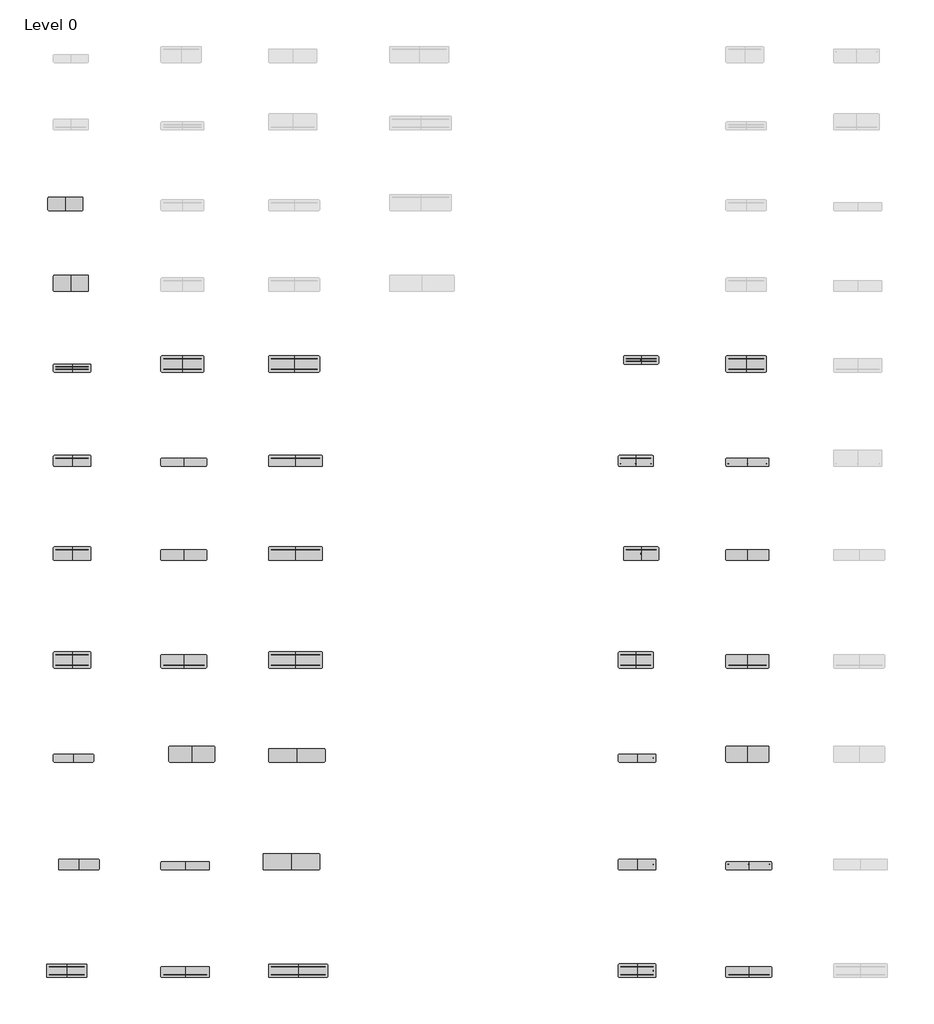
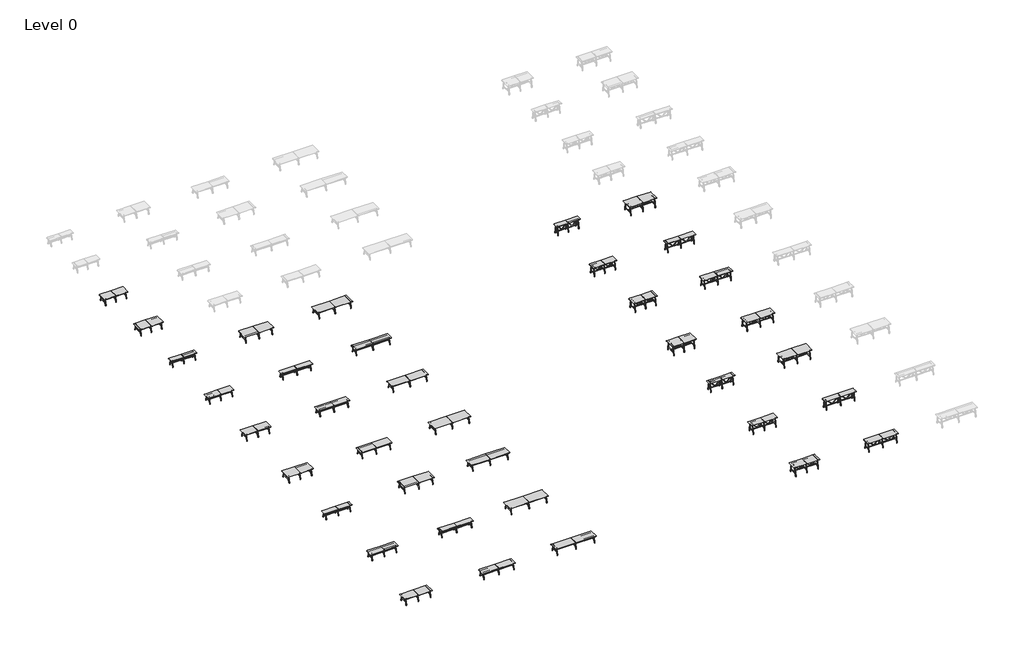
# One storey, part 1 of 2: 111 furniture elements.
"""IFC4 building model written with IfcOpenShell, lengths in millimetres."""

from ifc_helpers import new_model, si_unit, origin, place, context, project, spatial, transform, mapped, element, save
from components import furniture_430340d5, furniture_b79d2082, furniture_93a14fa1, furniture_cf4d2565, furniture_deea29bb, furniture_94fb7749, furniture_c624f670, furniture_f723603e, furniture_a930f645, furniture_c97e34f6, furniture_f51041cf, furniture_c619acf8, furniture_128a932d, furniture_eb29a019, furniture_cd37825a, furniture_3188798d, furniture_34c553e8, furniture_5c22946d, furniture_5564a68a, furniture_56d79fee, furniture_ae4a0ddc, furniture_764c62b1, furniture_8d13127c, furniture_c70b53db, furniture_7d9a73d7, furniture_f5455bfb, furniture_5045bd6b, furniture_01a6464a, furniture_1ba23f32, furniture_fe8ec95c, furniture_60e90959, furniture_6ec0f736, furniture_782106a6, furniture_340da50a, furniture_330fea7b, furniture_16feb259, furniture_3627ae5c, standard_e49cf23a, standard_764fe6dd, standard_51391d5e, standard_9c482cb1, standard_cbe8bfad, standard_96c98aa3, standard_6f20e87f, standard_83b622b6, standard_ebd812a6, standard_5d47b802, standard_5de00fbe, standard_5a547e0f, standard_f0e4b4a8, standard_dce489fb, standard_a8cf723d, standard_760dc299, standard_3fda8c66, standard_67ecec02, standard_20d5036e, standard_7387f7f3, standard_fa61a7d6, standard_bade355e, standard_b130652b, standard_3b17631c, standard_a00d5145, standard_066c3617, standard_4e0f21be, standard_f1ad80d6, standard_e8bf10b1, standard_5f55f8bf, standard_79f6cf34, standard_6aeb70d0, standard_100b0362

model = new_model("IFC4")

# Units and contexts
model_context = context("Model", 3, world=origin())
ifc_project = project(units=[si_unit("LENGTHUNIT", "METRE", prefix="MILLI")], contexts=[model_context])

# Site, building, storey
site = spatial("IfcSite", under=ifc_project)
building = spatial("IfcBuilding", under=site)
storey = spatial("IfcBuildingStorey", under=building, Name="Level 0", Elevation=0.0)

# Furniture
placement = place(None, origin())
furniture_shape = furniture_430340d5(model_context)
element("IfcFurniture", 1, ObjectType="BDG_BossDesign_Tbls_AgentTables6Legs : AGE-DT-6L-2600-1000-3D", at=placement, inside=storey, context=model_context, shape_type="MappedRepresentation", body=[
    mapped(furniture_shape, transform((-53284.3748273, -20663.0272761, 0.0), x_axis=(1.0, 0.0, 0.0), y_axis=(0.0, 1.0, 0.0), z_axis=(0.0, 0.0, 1.0))),
])
furniture_2_shape = furniture_b79d2082(model_context)
element("IfcFurniture", 2, ObjectType="BDG_BossDesign_Tbls_AgentTables6Legs : AGE-DT-6L-2600-1200-3D", at=placement, inside=storey, context=model_context, shape_type="MappedRepresentation", body=[
    mapped(furniture_2_shape, transform((-52884.3748273, -26563.0272761, 0.0), x_axis=(1.0, 0.0, 0.0), y_axis=(0.0, 1.0, 0.0), z_axis=(0.0, 0.0, 1.0))),
])
furniture_3_shape = furniture_93a14fa1(model_context)
element("IfcFurniture", 3, ObjectType="BDG_BossDesign_Tbls_AgentTables6Legs : AGE-DT-6L-2800-600-3D", at=placement, inside=storey, context=model_context, shape_type="MappedRepresentation", body=[
    mapped(furniture_3_shape, transform((-52784.3748273, -32863.0272761, 0.0), x_axis=(1.0, 0.0, 0.0), y_axis=(0.0, 1.0, 0.0), z_axis=(0.0, 0.0, 1.0))),
])
furniture_4_shape = furniture_cf4d2565(model_context)
element("IfcFurniture", 4, ObjectType="BDG_BossDesign_Tbls_AgentTables6Legs : AGE-DT-6L-2800-800-3D", at=placement, inside=storey, context=model_context, shape_type="MappedRepresentation", body=[
    mapped(furniture_4_shape, transform((-52784.3748273, -39763.0272761, 0.0), x_axis=(1.0, 0.0, 0.0), y_axis=(0.0, 1.0, 0.0), z_axis=(0.0, 0.0, 1.0))),
])
furniture_5_shape = furniture_deea29bb(model_context)
element("IfcFurniture", 5, ObjectType="BDG_BossDesign_Tbls_AgentTables6Legs : AGE-DT-6L-2800-1000-3D", at=placement, inside=storey, context=model_context, shape_type="MappedRepresentation", body=[
    mapped(furniture_5_shape, transform((-52784.3748273, -46663.0272761, 0.0), x_axis=(1.0, 0.0, 0.0), y_axis=(0.0, 1.0, 0.0), z_axis=(0.0, 0.0, 1.0))),
])
furniture_6_shape = furniture_94fb7749(model_context)
element("IfcFurniture", 6, ObjectType="BDG_BossDesign_Tbls_AgentTables6Legs : AGE-DT-6L-2800-1200-3D", at=placement, inside=storey, context=model_context, shape_type="MappedRepresentation", body=[
    mapped(furniture_6_shape, transform((-52784.3748273, -54563.0272761, 0.0), x_axis=(1.0, 0.0, 0.0), y_axis=(0.0, 1.0, 0.0), z_axis=(0.0, 0.0, 1.0))),
])
furniture_7_shape = furniture_c624f670(model_context)
element("IfcFurniture", 7, ObjectType="BDG_BossDesign_Tbls_AgentTables6Legs : AGE-DT-6L-3000-600-3D", at=placement, inside=storey, context=model_context, shape_type="MappedRepresentation", body=[
    mapped(furniture_7_shape, transform((-52684.3748273, -61863.0272761, 0.0), x_axis=(1.0, 0.0, 0.0), y_axis=(0.0, 1.0, 0.0), z_axis=(0.0, 0.0, 1.0))),
])
furniture_8_shape = furniture_f723603e(model_context)
element("IfcFurniture", 8, ObjectType="BDG_BossDesign_Tbls_AgentTables6Legs : AGE-DT-6L-3000-800-3D", at=placement, inside=storey, context=model_context, shape_type="MappedRepresentation", body=[
    mapped(furniture_8_shape, transform((-52284.3748273, -69763.0272761, 0.0), x_axis=(1.0, 0.0, 0.0), y_axis=(0.0, 1.0, 0.0), z_axis=(0.0, 0.0, 1.0))),
])
furniture_9_shape = furniture_a930f645(model_context)
element("IfcFurniture", 9, ObjectType="BDG_BossDesign_Tbls_AgentTables6Legs : AGE-DT-6L-3000-1000-3D", at=placement, inside=storey, context=model_context, shape_type="MappedRepresentation", body=[
    mapped(furniture_9_shape, transform((-53184.3748273, -77663.0272761, 0.0), x_axis=(1.0, 0.0, 0.0), y_axis=(0.0, 1.0, 0.0), z_axis=(0.0, 0.0, 1.0))),
])
furniture_10_shape = furniture_c97e34f6(model_context)
element("IfcFurniture", 10, ObjectType="BDG_BossDesign_Tbls_AgentTables6Legs : AGE-DT-6L-3200-1200-3D", at=placement, inside=storey, context=model_context, shape_type="MappedRepresentation", body=[
    mapped(furniture_10_shape, transform((-44584.3748273, -32563.0272761, 0.0), x_axis=(1.0, 0.0, 0.0), y_axis=(0.0, 1.0, 0.0), z_axis=(0.0, 0.0, 1.0))),
])
furniture_11_shape = furniture_f51041cf(model_context)
element("IfcFurniture", 11, ObjectType="BDG_BossDesign_Tbls_AgentTables6Legs : AGE-DT-6L-3400-600-3D", at=placement, inside=storey, context=model_context, shape_type="MappedRepresentation", body=[
    mapped(furniture_11_shape, transform((-44484.3748273, -39863.0272761, 0.0), x_axis=(1.0, 0.0, 0.0), y_axis=(0.0, 1.0, 0.0), z_axis=(0.0, 0.0, 1.0))),
])
furniture_12_shape = furniture_c619acf8(model_context)
element("IfcFurniture", 12, ObjectType="BDG_BossDesign_Tbls_AgentTables6Legs : AGE-DT-6L-3400-800-3D", at=placement, inside=storey, context=model_context, shape_type="MappedRepresentation", body=[
    mapped(furniture_12_shape, transform((-44484.3748273, -46763.0272761, 0.0), x_axis=(1.0, 0.0, 0.0), y_axis=(0.0, 1.0, 0.0), z_axis=(0.0, 0.0, 1.0))),
])
furniture_13_shape = furniture_128a932d(model_context)
element("IfcFurniture", 13, ObjectType="BDG_BossDesign_Tbls_AgentTables6Legs : AGE-DT-6L-3400-1000-3D", at=placement, inside=storey, context=model_context, shape_type="MappedRepresentation", body=[
    mapped(furniture_13_shape, transform((-44484.3748273, -54663.0272761, 0.0), x_axis=(1.0, 0.0, 0.0), y_axis=(0.0, 1.0, 0.0), z_axis=(0.0, 0.0, 1.0))),
])
furniture_14_shape = furniture_eb29a019(model_context)
element("IfcFurniture", 14, ObjectType="BDG_BossDesign_Tbls_AgentTables6Legs : AGE-DT-6L-3400-1200-3D", at=placement, inside=storey, context=model_context, shape_type="MappedRepresentation", body=[
    mapped(furniture_14_shape, transform((-43884.3748273, -61563.0272761, 0.0), x_axis=(1.0, 0.0, 0.0), y_axis=(0.0, 1.0, 0.0), z_axis=(0.0, 0.0, 1.0))),
])
furniture_15_shape = furniture_cd37825a(model_context)
element("IfcFurniture", 15, ObjectType="BDG_BossDesign_Tbls_AgentTables6Legs : AGE-DT-6L-3600-600-3D", at=placement, inside=storey, context=model_context, shape_type="MappedRepresentation", body=[
    mapped(furniture_15_shape, transform((-44384.3748273, -69863.0272761, 0.0), x_axis=(1.0, 0.0, 0.0), y_axis=(0.0, 1.0, 0.0), z_axis=(0.0, 0.0, 1.0))),
])
furniture_16_shape = furniture_3188798d(model_context)
element("IfcFurniture", 16, ObjectType="BDG_BossDesign_Tbls_AgentTables6Legs : AGE-DT-6L-3600-800-3D", at=placement, inside=storey, context=model_context, shape_type="MappedRepresentation", body=[
    mapped(furniture_16_shape, transform((-44384.3748273, -77763.0272761, 0.0), x_axis=(1.0, 0.0, 0.0), y_axis=(0.0, 1.0, 0.0), z_axis=(0.0, 0.0, 1.0))),
])
furniture_17_shape = furniture_34c553e8(model_context)
element("IfcFurniture", 17, ObjectType="BDG_BossDesign_Tbls_AgentTables6Legs : AGE-DT-6L-3800-1200-3D", at=placement, inside=storey, context=model_context, shape_type="MappedRepresentation", body=[
    mapped(furniture_17_shape, transform((-36284.3748273, -32563.0272761, 0.0), x_axis=(1.0, 0.0, 0.0), y_axis=(0.0, 1.0, 0.0), z_axis=(0.0, 0.0, 1.0))),
])
furniture_18_shape = furniture_5c22946d(model_context)
element("IfcFurniture", 18, ObjectType="BDG_BossDesign_Tbls_AgentTables6Legs : AGE-DT-6L-4000-800-3D", at=placement, inside=storey, context=model_context, shape_type="MappedRepresentation", body=[
    mapped(furniture_18_shape, transform((-36184.3748273, -39763.0272761, 0.0), x_axis=(1.0, 0.0, 0.0), y_axis=(0.0, 1.0, 0.0), z_axis=(0.0, 0.0, 1.0))),
])
furniture_19_shape = furniture_5564a68a(model_context)
element("IfcFurniture", 19, ObjectType="BDG_BossDesign_Tbls_AgentTables6Legs : AGE-DT-6L-4000-1000-3D", at=placement, inside=storey, context=model_context, shape_type="MappedRepresentation", body=[
    mapped(furniture_19_shape, transform((-36184.3748273, -46663.0272761, 0.0), x_axis=(1.0, 0.0, 0.0), y_axis=(0.0, 1.0, 0.0), z_axis=(0.0, 0.0, 1.0))),
])
furniture_20_shape = furniture_56d79fee(model_context)
element("IfcFurniture", 20, ObjectType="BDG_BossDesign_Tbls_AgentTables6Legs : AGE-DT-6L-4000-1200-3D", at=placement, inside=storey, context=model_context, shape_type="MappedRepresentation", body=[
    mapped(furniture_20_shape, transform((-36184.3748273, -54563.0272761, 0.0), x_axis=(1.0, 0.0, 0.0), y_axis=(0.0, 1.0, 0.0), z_axis=(0.0, 0.0, 1.0))),
])
furniture_21_shape = furniture_ae4a0ddc(model_context)
element("IfcFurniture", 21, ObjectType="BDG_BossDesign_Tbls_AgentTables6Legs : AGE-DT-6L-4200-1000-3D", at=placement, inside=storey, context=model_context, shape_type="MappedRepresentation", body=[
    mapped(furniture_21_shape, transform((-36084.3748273, -61663.0272761, 0.0), x_axis=(1.0, 0.0, 0.0), y_axis=(0.0, 1.0, 0.0), z_axis=(0.0, 0.0, 1.0))),
])
furniture_22_shape = furniture_764c62b1(model_context)
element("IfcFurniture", 22, ObjectType="BDG_BossDesign_Tbls_AgentTables6Legs : AGE-DT-6L-4200-1200-3D", at=placement, inside=storey, context=model_context, shape_type="MappedRepresentation", body=[
    mapped(furniture_22_shape, transform((-36484.3748273, -69563.0272761, 0.0), x_axis=(1.0, 0.0, 0.0), y_axis=(0.0, 1.0, 0.0), z_axis=(0.0, 0.0, 1.0))),
])
furniture_23_shape = furniture_8d13127c(model_context)
element("IfcFurniture", 23, ObjectType="BDG_BossDesign_Tbls_AgentTables6Legs : AGE-DT-6L-4400-1000-3D", at=placement, inside=storey, context=model_context, shape_type="MappedRepresentation", body=[
    mapped(furniture_23_shape, transform((-35984.3748273, -77663.0272761, 0.0), x_axis=(1.0, 0.0, 0.0), y_axis=(0.0, 1.0, 0.0), z_axis=(0.0, 0.0, 1.0))),
])
furniture_24_shape = furniture_c70b53db(model_context)
element("IfcFurniture", 24, ObjectType="BDG_BossDesign_Tbls_AgentTables6Legs : AGE-HT-6L-2600-600-3D", at=placement, inside=storey, context=model_context, shape_type="MappedRepresentation", body=[
    mapped(furniture_24_shape, transform((-10484.3748273, -32263.0272761, 0.0), x_axis=(1.0, 0.0, 0.0), y_axis=(0.0, 1.0, 0.0), z_axis=(0.0, 0.0, 1.0))),
])
furniture_25_shape = furniture_7d9a73d7(model_context)
element("IfcFurniture", 25, ObjectType="BDG_BossDesign_Tbls_AgentTables6Legs : AGE-HT-6L-2600-800-3D", at=placement, inside=storey, context=model_context, shape_type="MappedRepresentation", body=[
    mapped(furniture_25_shape, transform((-10884.3748273, -39763.0272761, 0.0), x_axis=(1.0, 0.0, 0.0), y_axis=(0.0, 1.0, 0.0), z_axis=(0.0, 0.0, 1.0))),
])
furniture_26_shape = furniture_f5455bfb(model_context)
element("IfcFurniture", 26, ObjectType="BDG_BossDesign_Tbls_AgentTables6Legs : AGE-HT-6L-2600-1000-3D", at=placement, inside=storey, context=model_context, shape_type="MappedRepresentation", body=[
    mapped(furniture_26_shape, transform((-10484.3748273, -46663.0272761, 0.0), x_axis=(1.0, 0.0, 0.0), y_axis=(0.0, 1.0, 0.0), z_axis=(0.0, 0.0, 1.0))),
])
furniture_27_shape = furniture_5045bd6b(model_context)
element("IfcFurniture", 27, ObjectType="BDG_BossDesign_Tbls_AgentTables6Legs : AGE-HT-6L-2600-1200-3D", at=placement, inside=storey, context=model_context, shape_type="MappedRepresentation", body=[
    mapped(furniture_27_shape, transform((-10884.3748273, -54563.0272761, 0.0), x_axis=(1.0, 0.0, 0.0), y_axis=(0.0, 1.0, 0.0), z_axis=(0.0, 0.0, 1.0))),
])
furniture_28_shape = furniture_01a6464a(model_context)
element("IfcFurniture", 28, ObjectType="BDG_BossDesign_Tbls_AgentTables6Legs : AGE-HT-6L-2800-600-3D", at=placement, inside=storey, context=model_context, shape_type="MappedRepresentation", body=[
    mapped(furniture_28_shape, transform((-10784.3748273, -61863.0272761, 0.0), x_axis=(1.0, 0.0, 0.0), y_axis=(0.0, 1.0, 0.0), z_axis=(0.0, 0.0, 1.0))),
])
furniture_29_shape = furniture_1ba23f32(model_context)
element("IfcFurniture", 29, ObjectType="BDG_BossDesign_Tbls_AgentTables6Legs : AGE-HT-6L-2800-800-3D", at=placement, inside=storey, context=model_context, shape_type="MappedRepresentation", body=[
    mapped(furniture_29_shape, transform((-10784.3748273, -69763.0272761, 0.0), x_axis=(1.0, 0.0, 0.0), y_axis=(0.0, 1.0, 0.0), z_axis=(0.0, 0.0, 1.0))),
])
furniture_30_shape = furniture_fe8ec95c(model_context)
element("IfcFurniture", 30, ObjectType="BDG_BossDesign_Tbls_AgentTables6Legs : AGE-HT-6L-2800-1000-3D", at=placement, inside=storey, context=model_context, shape_type="MappedRepresentation", body=[
    mapped(furniture_30_shape, transform((-10784.3748273, -77663.0272761, 0.0), x_axis=(1.0, 0.0, 0.0), y_axis=(0.0, 1.0, 0.0), z_axis=(0.0, 0.0, 1.0))),
])
furniture_31_shape = furniture_60e90959(model_context)
element("IfcFurniture", 31, ObjectType="BDG_BossDesign_Tbls_AgentTables6Legs : AGE-HT-6L-3000-1200-3D", at=placement, inside=storey, context=model_context, shape_type="MappedRepresentation", body=[
    mapped(furniture_31_shape, transform((-2684.3748273, -32563.0272761, 0.0), x_axis=(1.0, 0.0, 0.0), y_axis=(0.0, 1.0, 0.0), z_axis=(0.0, 0.0, 1.0))),
])
furniture_32_shape = furniture_6ec0f736(model_context)
element("IfcFurniture", 32, ObjectType="BDG_BossDesign_Tbls_AgentTables6Legs : AGE-HT-6L-3200-600-3D", at=placement, inside=storey, context=model_context, shape_type="MappedRepresentation", body=[
    mapped(furniture_32_shape, transform((-2584.3748273, -39863.0272761, 0.0), x_axis=(1.0, 0.0, 0.0), y_axis=(0.0, 1.0, 0.0), z_axis=(0.0, 0.0, 1.0))),
])
furniture_33_shape = furniture_782106a6(model_context)
element("IfcFurniture", 33, ObjectType="BDG_BossDesign_Tbls_AgentTables6Legs : AGE-HT-6L-3200-800-3D", at=placement, inside=storey, context=model_context, shape_type="MappedRepresentation", body=[
    mapped(furniture_33_shape, transform((-2584.3748273, -46763.0272761, 0.0), x_axis=(1.0, 0.0, 0.0), y_axis=(0.0, 1.0, 0.0), z_axis=(0.0, 0.0, 1.0))),
])
furniture_34_shape = furniture_340da50a(model_context)
element("IfcFurniture", 34, ObjectType="BDG_BossDesign_Tbls_AgentTables6Legs : AGE-HT-6L-3200-1000-3D", at=placement, inside=storey, context=model_context, shape_type="MappedRepresentation", body=[
    mapped(furniture_34_shape, transform((-2584.3748273, -54663.0272761, 0.0), x_axis=(1.0, 0.0, 0.0), y_axis=(0.0, 1.0, 0.0), z_axis=(0.0, 0.0, 1.0))),
])
furniture_35_shape = furniture_330fea7b(model_context)
element("IfcFurniture", 35, ObjectType="BDG_BossDesign_Tbls_AgentTables6Legs : AGE-HT-6L-3200-1200-3D", at=placement, inside=storey, context=model_context, shape_type="MappedRepresentation", body=[
    mapped(furniture_35_shape, transform((-2584.3748273, -61563.0272761, 0.0), x_axis=(1.0, 0.0, 0.0), y_axis=(0.0, 1.0, 0.0), z_axis=(0.0, 0.0, 1.0))),
])
furniture_36_shape = furniture_16feb259(model_context)
element("IfcFurniture", 36, ObjectType="BDG_BossDesign_Tbls_AgentTables6Legs : AGE-HT-6L-3400-600-3D", at=placement, inside=storey, context=model_context, shape_type="MappedRepresentation", body=[
    mapped(furniture_36_shape, transform((-2484.3748273, -69863.0272761, 0.0), x_axis=(1.0, 0.0, 0.0), y_axis=(0.0, 1.0, 0.0), z_axis=(0.0, 0.0, 1.0))),
])
furniture_37_shape = furniture_3627ae5c(model_context)
element("IfcFurniture", 37, ObjectType="BDG_BossDesign_Tbls_AgentTables6Legs : AGE-HT-6L-3400-800-3D", at=placement, inside=storey, context=model_context, shape_type="MappedRepresentation", body=[
    mapped(furniture_37_shape, transform((-2484.3748273, -77763.0272761, 0.0), x_axis=(1.0, 0.0, 0.0), y_axis=(0.0, 1.0, 0.0), z_axis=(0.0, 0.0, 1.0))),
])
standard_shape = standard_e49cf23a(model_context)
element("IfcFurniture", 38, ObjectType="BDG_BossDesign_Tbls_AgentTables4Legs_Nested : Standard", at=placement, inside=storey, context=model_context, shape_type="MappedRepresentation", body=[
    mapped(standard_shape, transform((-10484.3748273, -32263.0272761, 310.0), x_axis=(1.0, 0.0, 0.0), y_axis=(0.0, 1.0, 0.0), z_axis=(0.0, 0.0, 1.0))),
])
standard_2_shape = standard_764fe6dd(model_context)
element("IfcFurniture", 39, ObjectType="BDG_BossDesign_Tbls_AgentTables4Legs_MiddleCrossBeamNested : Standard", at=placement, inside=storey, context=model_context, shape_type="MappedRepresentation", body=[
    mapped(standard_2_shape, transform((-10484.3748273, -32263.0272761, 310.0), x_axis=(1.0, 0.0, 0.0), y_axis=(0.0, 1.0, 0.0), z_axis=(0.0, 0.0, 1.0))),
])
standard_3_shape = standard_51391d5e(model_context)
element("IfcFurniture", 40, ObjectType="BDG_BossDesign_Tbls_AgentTables4Legs_Nested : Standard", at=placement, inside=storey, context=model_context, shape_type="MappedRepresentation", body=[
    mapped(standard_3_shape, transform((-10884.3748273, -39763.0272761, 310.0), x_axis=(1.0, 0.0, 0.0), y_axis=(0.0, 1.0, 0.0), z_axis=(0.0, 0.0, 1.0))),
])
standard_4_shape = standard_9c482cb1(model_context)
element("IfcFurniture", 41, ObjectType="BDG_BossDesign_Tbls_AgentTables4Legs_MiddleCrossBeamNested : Standard", at=placement, inside=storey, context=model_context, shape_type="MappedRepresentation", body=[
    mapped(standard_4_shape, transform((-10884.3748273, -39763.0272761, 310.0), x_axis=(1.0, 0.0, 0.0), y_axis=(0.0, 1.0, 0.0), z_axis=(0.0, 0.0, 1.0))),
])
standard_5_shape = standard_cbe8bfad(model_context)
element("IfcFurniture", 42, ObjectType="BDG_BossDesign_Tbls_AgentTables4Legs_Nested : Standard", at=placement, inside=storey, context=model_context, shape_type="MappedRepresentation", body=[
    mapped(standard_5_shape, transform((-53284.3748273, -20663.0272761, 0.0), x_axis=(1.0, 0.0, 0.0), y_axis=(0.0, 1.0, 0.0), z_axis=(0.0, 0.0, 1.0))),
])
element("IfcFurniture", 43, ObjectType="BDG_BossDesign_Tbls_AgentTables4Legs_Nested : Standard", at=placement, inside=storey, context=model_context, shape_type="MappedRepresentation", body=[
    mapped(standard_5_shape, transform((-10484.3748273, -46663.0272761, 310.0), x_axis=(1.0, 0.0, 0.0), y_axis=(0.0, 1.0, 0.0), z_axis=(0.0, 0.0, 1.0))),
])
standard_6_shape = standard_96c98aa3(model_context)
element("IfcFurniture", 44, ObjectType="BDG_BossDesign_Tbls_AgentTables4Legs_MiddleCrossBeamNested : Standard", at=placement, inside=storey, context=model_context, shape_type="MappedRepresentation", body=[
    mapped(standard_6_shape, transform((-53284.3748273, -20663.0272761, 0.0), x_axis=(1.0, 0.0, 0.0), y_axis=(0.0, 1.0, 0.0), z_axis=(0.0, 0.0, 1.0))),
])
element("IfcFurniture", 45, ObjectType="BDG_BossDesign_Tbls_AgentTables4Legs_MiddleCrossBeamNested : Standard", at=placement, inside=storey, context=model_context, shape_type="MappedRepresentation", body=[
    mapped(standard_6_shape, transform((-10484.3748273, -46663.0272761, 310.0), x_axis=(1.0, 0.0, 0.0), y_axis=(0.0, 1.0, 0.0), z_axis=(0.0, 0.0, 1.0))),
])
standard_7_shape = standard_6f20e87f(model_context)
element("IfcFurniture", 46, ObjectType="BDG_BossDesign_Tbls_AgentTables4Legs_Nested : Standard", at=placement, inside=storey, context=model_context, shape_type="MappedRepresentation", body=[
    mapped(standard_7_shape, transform((-52884.3748273, -26563.0272761, 0.0), x_axis=(1.0, 0.0, 0.0), y_axis=(0.0, 1.0, 0.0), z_axis=(0.0, 0.0, 1.0))),
])
element("IfcFurniture", 47, ObjectType="BDG_BossDesign_Tbls_AgentTables4Legs_Nested : Standard", at=placement, inside=storey, context=model_context, shape_type="MappedRepresentation", body=[
    mapped(standard_7_shape, transform((-10884.3748273, -54563.0272761, 310.0), x_axis=(1.0, 0.0, 0.0), y_axis=(0.0, 1.0, 0.0), z_axis=(0.0, 0.0, 1.0))),
])
standard_8_shape = standard_83b622b6(model_context)
element("IfcFurniture", 48, ObjectType="BDG_BossDesign_Tbls_AgentTables4Legs_MiddleCrossBeamNested : Standard", at=placement, inside=storey, context=model_context, shape_type="MappedRepresentation", body=[
    mapped(standard_8_shape, transform((-52884.3748273, -26563.0272761, 0.0), x_axis=(1.0, 0.0, 0.0), y_axis=(0.0, 1.0, 0.0), z_axis=(0.0, 0.0, 1.0))),
])
element("IfcFurniture", 49, ObjectType="BDG_BossDesign_Tbls_AgentTables4Legs_MiddleCrossBeamNested : Standard", at=placement, inside=storey, context=model_context, shape_type="MappedRepresentation", body=[
    mapped(standard_8_shape, transform((-10884.3748273, -54563.0272761, 310.0), x_axis=(1.0, 0.0, 0.0), y_axis=(0.0, 1.0, 0.0), z_axis=(0.0, 0.0, 1.0))),
])
standard_9_shape = standard_ebd812a6(model_context)
element("IfcFurniture", 50, ObjectType="BDG_BossDesign_Tbls_AgentTables4Legs_Nested : Standard", at=placement, inside=storey, context=model_context, shape_type="MappedRepresentation", body=[
    mapped(standard_9_shape, transform((-52784.3748273, -32863.0272761, 0.0), x_axis=(1.0, 0.0, 0.0), y_axis=(0.0, 1.0, 0.0), z_axis=(0.0, 0.0, 1.0))),
])
element("IfcFurniture", 51, ObjectType="BDG_BossDesign_Tbls_AgentTables4Legs_Nested : Standard", at=placement, inside=storey, context=model_context, shape_type="MappedRepresentation", body=[
    mapped(standard_9_shape, transform((-10784.3748273, -61863.0272761, 310.0), x_axis=(1.0, 0.0, 0.0), y_axis=(0.0, 1.0, 0.0), z_axis=(0.0, 0.0, 1.0))),
])
element("IfcFurniture", 52, ObjectType="BDG_BossDesign_Tbls_AgentTables4Legs_MiddleCrossBeamNested : Standard", at=placement, inside=storey, context=model_context, shape_type="MappedRepresentation", body=[
    mapped(standard_2_shape, transform((-52784.3748273, -32863.0272761, 0.0), x_axis=(1.0, 0.0, 0.0), y_axis=(0.0, 1.0, 0.0), z_axis=(0.0, 0.0, 1.0))),
])
element("IfcFurniture", 53, ObjectType="BDG_BossDesign_Tbls_AgentTables4Legs_MiddleCrossBeamNested : Standard", at=placement, inside=storey, context=model_context, shape_type="MappedRepresentation", body=[
    mapped(standard_2_shape, transform((-10784.3748273, -61863.0272761, 310.0), x_axis=(1.0, 0.0, 0.0), y_axis=(0.0, 1.0, 0.0), z_axis=(0.0, 0.0, 1.0))),
])
standard_10_shape = standard_5d47b802(model_context)
element("IfcFurniture", 54, ObjectType="BDG_BossDesign_Tbls_AgentTables4Legs_Nested : Standard", at=placement, inside=storey, context=model_context, shape_type="MappedRepresentation", body=[
    mapped(standard_10_shape, transform((-52784.3748273, -39763.0272761, 0.0), x_axis=(1.0, 0.0, 0.0), y_axis=(0.0, 1.0, 0.0), z_axis=(0.0, 0.0, 1.0))),
])
element("IfcFurniture", 55, ObjectType="BDG_BossDesign_Tbls_AgentTables4Legs_Nested : Standard", at=placement, inside=storey, context=model_context, shape_type="MappedRepresentation", body=[
    mapped(standard_10_shape, transform((-10784.3748273, -69763.0272761, 310.0), x_axis=(1.0, 0.0, 0.0), y_axis=(0.0, 1.0, 0.0), z_axis=(0.0, 0.0, 1.0))),
])
element("IfcFurniture", 56, ObjectType="BDG_BossDesign_Tbls_AgentTables4Legs_MiddleCrossBeamNested : Standard", at=placement, inside=storey, context=model_context, shape_type="MappedRepresentation", body=[
    mapped(standard_4_shape, transform((-52784.3748273, -39763.0272761, 0.0), x_axis=(1.0, 0.0, 0.0), y_axis=(0.0, 1.0, 0.0), z_axis=(0.0, 0.0, 1.0))),
])
element("IfcFurniture", 57, ObjectType="BDG_BossDesign_Tbls_AgentTables4Legs_MiddleCrossBeamNested : Standard", at=placement, inside=storey, context=model_context, shape_type="MappedRepresentation", body=[
    mapped(standard_4_shape, transform((-10784.3748273, -69763.0272761, 310.0), x_axis=(1.0, 0.0, 0.0), y_axis=(0.0, 1.0, 0.0), z_axis=(0.0, 0.0, 1.0))),
])
standard_11_shape = standard_5de00fbe(model_context)
element("IfcFurniture", 58, ObjectType="BDG_BossDesign_Tbls_AgentTables4Legs_Nested : Standard", at=placement, inside=storey, context=model_context, shape_type="MappedRepresentation", body=[
    mapped(standard_11_shape, transform((-52784.3748273, -46663.0272761, 0.0), x_axis=(1.0, 0.0, 0.0), y_axis=(0.0, 1.0, 0.0), z_axis=(0.0, 0.0, 1.0))),
])
element("IfcFurniture", 59, ObjectType="BDG_BossDesign_Tbls_AgentTables4Legs_Nested : Standard", at=placement, inside=storey, context=model_context, shape_type="MappedRepresentation", body=[
    mapped(standard_11_shape, transform((-10784.3748273, -77663.0272761, 310.0), x_axis=(1.0, 0.0, 0.0), y_axis=(0.0, 1.0, 0.0), z_axis=(0.0, 0.0, 1.0))),
])
element("IfcFurniture", 60, ObjectType="BDG_BossDesign_Tbls_AgentTables4Legs_MiddleCrossBeamNested : Standard", at=placement, inside=storey, context=model_context, shape_type="MappedRepresentation", body=[
    mapped(standard_6_shape, transform((-52784.3748273, -46663.0272761, 0.0), x_axis=(1.0, 0.0, 0.0), y_axis=(0.0, 1.0, 0.0), z_axis=(0.0, 0.0, 1.0))),
])
element("IfcFurniture", 61, ObjectType="BDG_BossDesign_Tbls_AgentTables4Legs_MiddleCrossBeamNested : Standard", at=placement, inside=storey, context=model_context, shape_type="MappedRepresentation", body=[
    mapped(standard_6_shape, transform((-10784.3748273, -77663.0272761, 310.0), x_axis=(1.0, 0.0, 0.0), y_axis=(0.0, 1.0, 0.0), z_axis=(0.0, 0.0, 1.0))),
])
standard_12_shape = standard_5a547e0f(model_context)
element("IfcFurniture", 62, ObjectType="BDG_BossDesign_Tbls_AgentTables4Legs_Nested : Standard", at=placement, inside=storey, context=model_context, shape_type="MappedRepresentation", body=[
    mapped(standard_12_shape, transform((-52784.3748273, -54563.0272761, 0.0), x_axis=(1.0, 0.0, 0.0), y_axis=(0.0, 1.0, 0.0), z_axis=(0.0, 0.0, 1.0))),
])
element("IfcFurniture", 63, ObjectType="BDG_BossDesign_Tbls_AgentTables4Legs_MiddleCrossBeamNested : Standard", at=placement, inside=storey, context=model_context, shape_type="MappedRepresentation", body=[
    mapped(standard_8_shape, transform((-52784.3748273, -54563.0272761, 0.0), x_axis=(1.0, 0.0, 0.0), y_axis=(0.0, 1.0, 0.0), z_axis=(0.0, 0.0, 1.0))),
])
standard_13_shape = standard_f0e4b4a8(model_context)
element("IfcFurniture", 64, ObjectType="BDG_BossDesign_Tbls_AgentTables4Legs_Nested : Standard", at=placement, inside=storey, context=model_context, shape_type="MappedRepresentation", body=[
    mapped(standard_13_shape, transform((-52684.3748273, -61863.0272761, 0.0), x_axis=(1.0, 0.0, 0.0), y_axis=(0.0, 1.0, 0.0), z_axis=(0.0, 0.0, 1.0))),
])
element("IfcFurniture", 65, ObjectType="BDG_BossDesign_Tbls_AgentTables4Legs_MiddleCrossBeamNested : Standard", at=placement, inside=storey, context=model_context, shape_type="MappedRepresentation", body=[
    mapped(standard_2_shape, transform((-52684.3748273, -61863.0272761, 0.0), x_axis=(1.0, 0.0, 0.0), y_axis=(0.0, 1.0, 0.0), z_axis=(0.0, 0.0, 1.0))),
])
standard_14_shape = standard_dce489fb(model_context)
element("IfcFurniture", 66, ObjectType="BDG_BossDesign_Tbls_AgentTables4Legs_Nested : Standard", at=placement, inside=storey, context=model_context, shape_type="MappedRepresentation", body=[
    mapped(standard_14_shape, transform((-52284.3748273, -69763.0272761, 0.0), x_axis=(1.0, 0.0, 0.0), y_axis=(0.0, 1.0, 0.0), z_axis=(0.0, 0.0, 1.0))),
])
element("IfcFurniture", 67, ObjectType="BDG_BossDesign_Tbls_AgentTables4Legs_MiddleCrossBeamNested : Standard", at=placement, inside=storey, context=model_context, shape_type="MappedRepresentation", body=[
    mapped(standard_4_shape, transform((-52284.3748273, -69763.0272761, 0.0), x_axis=(1.0, 0.0, 0.0), y_axis=(0.0, 1.0, 0.0), z_axis=(0.0, 0.0, 1.0))),
])
standard_15_shape = standard_a8cf723d(model_context)
element("IfcFurniture", 68, ObjectType="BDG_BossDesign_Tbls_AgentTables4Legs_Nested : Standard", at=placement, inside=storey, context=model_context, shape_type="MappedRepresentation", body=[
    mapped(standard_15_shape, transform((-53184.3748273, -77663.0272761, 0.0), x_axis=(1.0, 0.0, 0.0), y_axis=(0.0, 1.0, 0.0), z_axis=(0.0, 0.0, 1.0))),
])
element("IfcFurniture", 69, ObjectType="BDG_BossDesign_Tbls_AgentTables4Legs_MiddleCrossBeamNested : Standard", at=placement, inside=storey, context=model_context, shape_type="MappedRepresentation", body=[
    mapped(standard_6_shape, transform((-53184.3748273, -77663.0272761, 0.0), x_axis=(1.0, 0.0, 0.0), y_axis=(0.0, 1.0, 0.0), z_axis=(0.0, 0.0, 1.0))),
])
standard_16_shape = standard_760dc299(model_context)
element("IfcFurniture", 70, ObjectType="BDG_BossDesign_Tbls_AgentTables4Legs_Nested : Standard", at=placement, inside=storey, context=model_context, shape_type="MappedRepresentation", body=[
    mapped(standard_16_shape, transform((-2684.3748273, -32563.0272761, 310.0), x_axis=(1.0, 0.0, 0.0), y_axis=(0.0, 1.0, 0.0), z_axis=(0.0, 0.0, 1.0))),
])
element("IfcFurniture", 71, ObjectType="BDG_BossDesign_Tbls_AgentTables4Legs_MiddleCrossBeamNested : Standard", at=placement, inside=storey, context=model_context, shape_type="MappedRepresentation", body=[
    mapped(standard_8_shape, transform((-2684.3748273, -32563.0272761, 310.0), x_axis=(1.0, 0.0, 0.0), y_axis=(0.0, 1.0, 0.0), z_axis=(0.0, 0.0, 1.0))),
])
standard_17_shape = standard_3fda8c66(model_context)
element("IfcFurniture", 72, ObjectType="BDG_BossDesign_Tbls_AgentTables4Legs_Nested : Standard", at=placement, inside=storey, context=model_context, shape_type="MappedRepresentation", body=[
    mapped(standard_17_shape, transform((-2584.3748273, -39863.0272761, 310.0), x_axis=(1.0, 0.0, 0.0), y_axis=(0.0, 1.0, 0.0), z_axis=(0.0, 0.0, 1.0))),
])
element("IfcFurniture", 73, ObjectType="BDG_BossDesign_Tbls_AgentTables4Legs_MiddleCrossBeamNested : Standard", at=placement, inside=storey, context=model_context, shape_type="MappedRepresentation", body=[
    mapped(standard_2_shape, transform((-2584.3748273, -39863.0272761, 310.0), x_axis=(1.0, 0.0, 0.0), y_axis=(0.0, 1.0, 0.0), z_axis=(0.0, 0.0, 1.0))),
])
standard_18_shape = standard_67ecec02(model_context)
element("IfcFurniture", 74, ObjectType="BDG_BossDesign_Tbls_AgentTables4Legs_Nested : Standard", at=placement, inside=storey, context=model_context, shape_type="MappedRepresentation", body=[
    mapped(standard_18_shape, transform((-2584.3748273, -46763.0272761, 310.0), x_axis=(1.0, 0.0, 0.0), y_axis=(0.0, 1.0, 0.0), z_axis=(0.0, 0.0, 1.0))),
])
element("IfcFurniture", 75, ObjectType="BDG_BossDesign_Tbls_AgentTables4Legs_MiddleCrossBeamNested : Standard", at=placement, inside=storey, context=model_context, shape_type="MappedRepresentation", body=[
    mapped(standard_4_shape, transform((-2584.3748273, -46763.0272761, 310.0), x_axis=(1.0, 0.0, 0.0), y_axis=(0.0, 1.0, 0.0), z_axis=(0.0, 0.0, 1.0))),
])
standard_19_shape = standard_20d5036e(model_context)
element("IfcFurniture", 76, ObjectType="BDG_BossDesign_Tbls_AgentTables4Legs_Nested : Standard", at=placement, inside=storey, context=model_context, shape_type="MappedRepresentation", body=[
    mapped(standard_19_shape, transform((-2584.3748273, -54663.0272761, 310.0), x_axis=(1.0, 0.0, 0.0), y_axis=(0.0, 1.0, 0.0), z_axis=(0.0, 0.0, 1.0))),
])
element("IfcFurniture", 77, ObjectType="BDG_BossDesign_Tbls_AgentTables4Legs_MiddleCrossBeamNested : Standard", at=placement, inside=storey, context=model_context, shape_type="MappedRepresentation", body=[
    mapped(standard_6_shape, transform((-2584.3748273, -54663.0272761, 310.0), x_axis=(1.0, 0.0, 0.0), y_axis=(0.0, 1.0, 0.0), z_axis=(0.0, 0.0, 1.0))),
])
standard_20_shape = standard_7387f7f3(model_context)
element("IfcFurniture", 78, ObjectType="BDG_BossDesign_Tbls_AgentTables4Legs_Nested : Standard", at=placement, inside=storey, context=model_context, shape_type="MappedRepresentation", body=[
    mapped(standard_20_shape, transform((-44584.3748273, -32563.0272761, 0.0), x_axis=(1.0, 0.0, 0.0), y_axis=(0.0, 1.0, 0.0), z_axis=(0.0, 0.0, 1.0))),
])
element("IfcFurniture", 79, ObjectType="BDG_BossDesign_Tbls_AgentTables4Legs_Nested : Standard", at=placement, inside=storey, context=model_context, shape_type="MappedRepresentation", body=[
    mapped(standard_20_shape, transform((-2584.3748273, -61563.0272761, 310.0), x_axis=(1.0, 0.0, 0.0), y_axis=(0.0, 1.0, 0.0), z_axis=(0.0, 0.0, 1.0))),
])
element("IfcFurniture", 80, ObjectType="BDG_BossDesign_Tbls_AgentTables4Legs_MiddleCrossBeamNested : Standard", at=placement, inside=storey, context=model_context, shape_type="MappedRepresentation", body=[
    mapped(standard_8_shape, transform((-44584.3748273, -32563.0272761, 0.0), x_axis=(1.0, 0.0, 0.0), y_axis=(0.0, 1.0, 0.0), z_axis=(0.0, 0.0, 1.0))),
])
element("IfcFurniture", 81, ObjectType="BDG_BossDesign_Tbls_AgentTables4Legs_MiddleCrossBeamNested : Standard", at=placement, inside=storey, context=model_context, shape_type="MappedRepresentation", body=[
    mapped(standard_8_shape, transform((-2584.3748273, -61563.0272761, 310.0), x_axis=(1.0, 0.0, 0.0), y_axis=(0.0, 1.0, 0.0), z_axis=(0.0, 0.0, 1.0))),
])
standard_21_shape = standard_fa61a7d6(model_context)
element("IfcFurniture", 82, ObjectType="BDG_BossDesign_Tbls_AgentTables4Legs_Nested : Standard", at=placement, inside=storey, context=model_context, shape_type="MappedRepresentation", body=[
    mapped(standard_21_shape, transform((-44484.3748273, -39863.0272761, 0.0), x_axis=(1.0, 0.0, 0.0), y_axis=(0.0, 1.0, 0.0), z_axis=(0.0, 0.0, 1.0))),
])
element("IfcFurniture", 83, ObjectType="BDG_BossDesign_Tbls_AgentTables4Legs_Nested : Standard", at=placement, inside=storey, context=model_context, shape_type="MappedRepresentation", body=[
    mapped(standard_21_shape, transform((-2484.3748273, -69863.0272761, 310.0), x_axis=(1.0, 0.0, 0.0), y_axis=(0.0, 1.0, 0.0), z_axis=(0.0, 0.0, 1.0))),
])
element("IfcFurniture", 84, ObjectType="BDG_BossDesign_Tbls_AgentTables4Legs_MiddleCrossBeamNested : Standard", at=placement, inside=storey, context=model_context, shape_type="MappedRepresentation", body=[
    mapped(standard_2_shape, transform((-44484.3748273, -39863.0272761, 0.0), x_axis=(1.0, 0.0, 0.0), y_axis=(0.0, 1.0, 0.0), z_axis=(0.0, 0.0, 1.0))),
])
element("IfcFurniture", 85, ObjectType="BDG_BossDesign_Tbls_AgentTables4Legs_MiddleCrossBeamNested : Standard", at=placement, inside=storey, context=model_context, shape_type="MappedRepresentation", body=[
    mapped(standard_2_shape, transform((-2484.3748273, -69863.0272761, 310.0), x_axis=(1.0, 0.0, 0.0), y_axis=(0.0, 1.0, 0.0), z_axis=(0.0, 0.0, 1.0))),
])
standard_22_shape = standard_bade355e(model_context)
element("IfcFurniture", 86, ObjectType="BDG_BossDesign_Tbls_AgentTables4Legs_Nested : Standard", at=placement, inside=storey, context=model_context, shape_type="MappedRepresentation", body=[
    mapped(standard_22_shape, transform((-44484.3748273, -46763.0272761, 0.0), x_axis=(1.0, 0.0, 0.0), y_axis=(0.0, 1.0, 0.0), z_axis=(0.0, 0.0, 1.0))),
])
element("IfcFurniture", 87, ObjectType="BDG_BossDesign_Tbls_AgentTables4Legs_Nested : Standard", at=placement, inside=storey, context=model_context, shape_type="MappedRepresentation", body=[
    mapped(standard_22_shape, transform((-2484.3748273, -77763.0272761, 310.0), x_axis=(1.0, 0.0, 0.0), y_axis=(0.0, 1.0, 0.0), z_axis=(0.0, 0.0, 1.0))),
])
element("IfcFurniture", 88, ObjectType="BDG_BossDesign_Tbls_AgentTables4Legs_MiddleCrossBeamNested : Standard", at=placement, inside=storey, context=model_context, shape_type="MappedRepresentation", body=[
    mapped(standard_4_shape, transform((-44484.3748273, -46763.0272761, 0.0), x_axis=(1.0, 0.0, 0.0), y_axis=(0.0, 1.0, 0.0), z_axis=(0.0, 0.0, 1.0))),
])
element("IfcFurniture", 89, ObjectType="BDG_BossDesign_Tbls_AgentTables4Legs_MiddleCrossBeamNested : Standard", at=placement, inside=storey, context=model_context, shape_type="MappedRepresentation", body=[
    mapped(standard_4_shape, transform((-2484.3748273, -77763.0272761, 310.0), x_axis=(1.0, 0.0, 0.0), y_axis=(0.0, 1.0, 0.0), z_axis=(0.0, 0.0, 1.0))),
])
standard_23_shape = standard_b130652b(model_context)
element("IfcFurniture", 90, ObjectType="BDG_BossDesign_Tbls_AgentTables4Legs_Nested : Standard", at=placement, inside=storey, context=model_context, shape_type="MappedRepresentation", body=[
    mapped(standard_23_shape, transform((-44484.3748273, -54663.0272761, 0.0), x_axis=(1.0, 0.0, 0.0), y_axis=(0.0, 1.0, 0.0), z_axis=(0.0, 0.0, 1.0))),
])
element("IfcFurniture", 91, ObjectType="BDG_BossDesign_Tbls_AgentTables4Legs_MiddleCrossBeamNested : Standard", at=placement, inside=storey, context=model_context, shape_type="MappedRepresentation", body=[
    mapped(standard_6_shape, transform((-44484.3748273, -54663.0272761, 0.0), x_axis=(1.0, 0.0, 0.0), y_axis=(0.0, 1.0, 0.0), z_axis=(0.0, 0.0, 1.0))),
])
standard_24_shape = standard_3b17631c(model_context)
element("IfcFurniture", 92, ObjectType="BDG_BossDesign_Tbls_AgentTables4Legs_Nested : Standard", at=placement, inside=storey, context=model_context, shape_type="MappedRepresentation", body=[
    mapped(standard_24_shape, transform((-43884.3748273, -61563.0272761, 0.0), x_axis=(1.0, 0.0, 0.0), y_axis=(0.0, 1.0, 0.0), z_axis=(0.0, 0.0, 1.0))),
])
element("IfcFurniture", 93, ObjectType="BDG_BossDesign_Tbls_AgentTables4Legs_MiddleCrossBeamNested : Standard", at=placement, inside=storey, context=model_context, shape_type="MappedRepresentation", body=[
    mapped(standard_8_shape, transform((-43884.3748273, -61563.0272761, 0.0), x_axis=(1.0, 0.0, 0.0), y_axis=(0.0, 1.0, 0.0), z_axis=(0.0, 0.0, 1.0))),
])
standard_25_shape = standard_a00d5145(model_context)
element("IfcFurniture", 94, ObjectType="BDG_BossDesign_Tbls_AgentTables4Legs_Nested : Standard", at=placement, inside=storey, context=model_context, shape_type="MappedRepresentation", body=[
    mapped(standard_25_shape, transform((-44384.3748273, -69863.0272761, 0.0), x_axis=(1.0, 0.0, 0.0), y_axis=(0.0, 1.0, 0.0), z_axis=(0.0, 0.0, 1.0))),
])
element("IfcFurniture", 95, ObjectType="BDG_BossDesign_Tbls_AgentTables4Legs_MiddleCrossBeamNested : Standard", at=placement, inside=storey, context=model_context, shape_type="MappedRepresentation", body=[
    mapped(standard_2_shape, transform((-44384.3748273, -69863.0272761, 0.0), x_axis=(1.0, 0.0, 0.0), y_axis=(0.0, 1.0, 0.0), z_axis=(0.0, 0.0, 1.0))),
])
standard_26_shape = standard_066c3617(model_context)
element("IfcFurniture", 96, ObjectType="BDG_BossDesign_Tbls_AgentTables4Legs_Nested : Standard", at=placement, inside=storey, context=model_context, shape_type="MappedRepresentation", body=[
    mapped(standard_26_shape, transform((-44384.3748273, -77763.0272761, 0.0), x_axis=(1.0, 0.0, 0.0), y_axis=(0.0, 1.0, 0.0), z_axis=(0.0, 0.0, 1.0))),
])
element("IfcFurniture", 97, ObjectType="BDG_BossDesign_Tbls_AgentTables4Legs_MiddleCrossBeamNested : Standard", at=placement, inside=storey, context=model_context, shape_type="MappedRepresentation", body=[
    mapped(standard_4_shape, transform((-44384.3748273, -77763.0272761, 0.0), x_axis=(1.0, 0.0, 0.0), y_axis=(0.0, 1.0, 0.0), z_axis=(0.0, 0.0, 1.0))),
])
standard_27_shape = standard_4e0f21be(model_context)
element("IfcFurniture", 98, ObjectType="BDG_BossDesign_Tbls_AgentTables4Legs_Nested : Standard", at=placement, inside=storey, context=model_context, shape_type="MappedRepresentation", body=[
    mapped(standard_27_shape, transform((-36284.3748273, -32563.0272761, 0.0), x_axis=(1.0, 0.0, 0.0), y_axis=(0.0, 1.0, 0.0), z_axis=(0.0, 0.0, 1.0))),
])
element("IfcFurniture", 99, ObjectType="BDG_BossDesign_Tbls_AgentTables4Legs_MiddleCrossBeamNested : Standard", at=placement, inside=storey, context=model_context, shape_type="MappedRepresentation", body=[
    mapped(standard_8_shape, transform((-36284.3748273, -32563.0272761, 0.0), x_axis=(1.0, 0.0, 0.0), y_axis=(0.0, 1.0, 0.0), z_axis=(0.0, 0.0, 1.0))),
])
standard_28_shape = standard_f1ad80d6(model_context)
element("IfcFurniture", 100, ObjectType="BDG_BossDesign_Tbls_AgentTables4Legs_Nested : Standard", at=placement, inside=storey, context=model_context, shape_type="MappedRepresentation", body=[
    mapped(standard_28_shape, transform((-36184.3748273, -39763.0272761, 0.0), x_axis=(1.0, 0.0, 0.0), y_axis=(0.0, 1.0, 0.0), z_axis=(0.0, 0.0, 1.0))),
])
element("IfcFurniture", 101, ObjectType="BDG_BossDesign_Tbls_AgentTables4Legs_MiddleCrossBeamNested : Standard", at=placement, inside=storey, context=model_context, shape_type="MappedRepresentation", body=[
    mapped(standard_4_shape, transform((-36184.3748273, -39763.0272761, 0.0), x_axis=(1.0, 0.0, 0.0), y_axis=(0.0, 1.0, 0.0), z_axis=(0.0, 0.0, 1.0))),
])
standard_29_shape = standard_e8bf10b1(model_context)
element("IfcFurniture", 102, ObjectType="BDG_BossDesign_Tbls_AgentTables4Legs_Nested : Standard", at=placement, inside=storey, context=model_context, shape_type="MappedRepresentation", body=[
    mapped(standard_29_shape, transform((-36184.3748273, -46663.0272761, 0.0), x_axis=(1.0, 0.0, 0.0), y_axis=(0.0, 1.0, 0.0), z_axis=(0.0, 0.0, 1.0))),
])
element("IfcFurniture", 103, ObjectType="BDG_BossDesign_Tbls_AgentTables4Legs_MiddleCrossBeamNested : Standard", at=placement, inside=storey, context=model_context, shape_type="MappedRepresentation", body=[
    mapped(standard_6_shape, transform((-36184.3748273, -46663.0272761, 0.0), x_axis=(1.0, 0.0, 0.0), y_axis=(0.0, 1.0, 0.0), z_axis=(0.0, 0.0, 1.0))),
])
standard_30_shape = standard_5f55f8bf(model_context)
element("IfcFurniture", 104, ObjectType="BDG_BossDesign_Tbls_AgentTables4Legs_Nested : Standard", at=placement, inside=storey, context=model_context, shape_type="MappedRepresentation", body=[
    mapped(standard_30_shape, transform((-36184.3748273, -54563.0272761, 0.0), x_axis=(1.0, 0.0, 0.0), y_axis=(0.0, 1.0, 0.0), z_axis=(0.0, 0.0, 1.0))),
])
element("IfcFurniture", 105, ObjectType="BDG_BossDesign_Tbls_AgentTables4Legs_MiddleCrossBeamNested : Standard", at=placement, inside=storey, context=model_context, shape_type="MappedRepresentation", body=[
    mapped(standard_8_shape, transform((-36184.3748273, -54563.0272761, 0.0), x_axis=(1.0, 0.0, 0.0), y_axis=(0.0, 1.0, 0.0), z_axis=(0.0, 0.0, 1.0))),
])
standard_31_shape = standard_79f6cf34(model_context)
element("IfcFurniture", 106, ObjectType="BDG_BossDesign_Tbls_AgentTables4Legs_Nested : Standard", at=placement, inside=storey, context=model_context, shape_type="MappedRepresentation", body=[
    mapped(standard_31_shape, transform((-36084.3748273, -61663.0272761, 0.0), x_axis=(1.0, 0.0, 0.0), y_axis=(0.0, 1.0, 0.0), z_axis=(0.0, 0.0, 1.0))),
])
element("IfcFurniture", 107, ObjectType="BDG_BossDesign_Tbls_AgentTables4Legs_MiddleCrossBeamNested : Standard", at=placement, inside=storey, context=model_context, shape_type="MappedRepresentation", body=[
    mapped(standard_6_shape, transform((-36084.3748273, -61663.0272761, 0.0), x_axis=(1.0, 0.0, 0.0), y_axis=(0.0, 1.0, 0.0), z_axis=(0.0, 0.0, 1.0))),
])
standard_32_shape = standard_6aeb70d0(model_context)
element("IfcFurniture", 108, ObjectType="BDG_BossDesign_Tbls_AgentTables4Legs_Nested : Standard", at=placement, inside=storey, context=model_context, shape_type="MappedRepresentation", body=[
    mapped(standard_32_shape, transform((-36484.3748273, -69563.0272761, 0.0), x_axis=(1.0, 0.0, 0.0), y_axis=(0.0, 1.0, 0.0), z_axis=(0.0, 0.0, 1.0))),
])
element("IfcFurniture", 109, ObjectType="BDG_BossDesign_Tbls_AgentTables4Legs_MiddleCrossBeamNested : Standard", at=placement, inside=storey, context=model_context, shape_type="MappedRepresentation", body=[
    mapped(standard_8_shape, transform((-36484.3748273, -69563.0272761, 0.0), x_axis=(1.0, 0.0, 0.0), y_axis=(0.0, 1.0, 0.0), z_axis=(0.0, 0.0, 1.0))),
])
standard_33_shape = standard_100b0362(model_context)
element("IfcFurniture", 110, ObjectType="BDG_BossDesign_Tbls_AgentTables4Legs_Nested : Standard", at=placement, inside=storey, context=model_context, shape_type="MappedRepresentation", body=[
    mapped(standard_33_shape, transform((-35984.3748273, -77663.0272761, 0.0), x_axis=(1.0, 0.0, 0.0), y_axis=(0.0, 1.0, 0.0), z_axis=(0.0, 0.0, 1.0))),
])
element("IfcFurniture", 111, ObjectType="BDG_BossDesign_Tbls_AgentTables4Legs_MiddleCrossBeamNested : Standard", at=placement, inside=storey, context=model_context, shape_type="MappedRepresentation", body=[
    mapped(standard_6_shape, transform((-35984.3748273, -77663.0272761, 0.0), x_axis=(1.0, 0.0, 0.0), y_axis=(0.0, 1.0, 0.0), z_axis=(0.0, 0.0, 1.0))),
])

save(model, "model.ifc")
